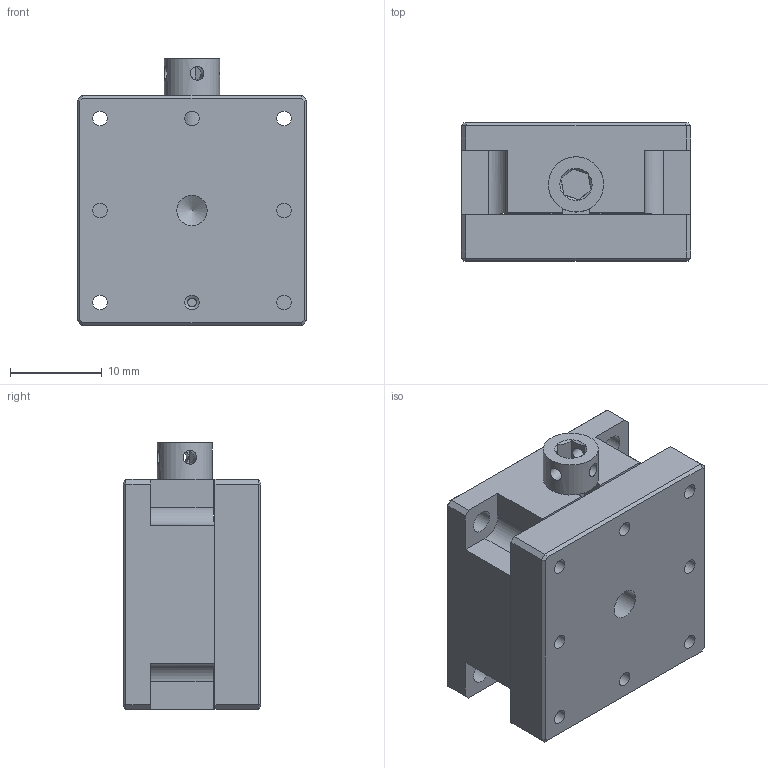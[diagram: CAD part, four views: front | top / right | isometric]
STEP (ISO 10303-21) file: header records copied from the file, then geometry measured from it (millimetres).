
FILE_DESCRIPTION (( 'STEP AP203' ), '1' );
FILE_NAME ('BKA25.STEP', '2024-07-31T07:31:45', ( 'Windows User' ), ( 'P R C' ), 'SwSTEP 2.0', 'SolidWorks 2024', '' );
FILE_SCHEMA (( 'CONFIG_CONTROL_DESIGN' ));
Length unit declared in the file: millimetre
Products named in the file (1): BKA25
Bounding box: 25 x 15 x 29 mm (x, y, z)
Volume: 7928 mm3; surface area: 5753.5 mm2
Topology: 3 solids, 3 shells, 146 faces, 386 edges, 249 vertices
Faces by surface type: plane 99, cylinder 39, cone 8
Full cylindrical faces by diameter (mm): 1.5 x4, 1.6 x8, 2.05 x3, 2.5 x3, 3 x2, 3.3 x1, 3.5 x1, 4 x1, 4.5 x1, 6 x1
Entity records: 4563 total; most frequent: CARTESIAN_POINT 996, DIRECTION 693, ORIENTED_EDGE 678, EDGE_CURVE 339, VECTOR 243, LINE 243, VERTEX_POINT 236, AXIS2_PLACEMENT_3D 225
